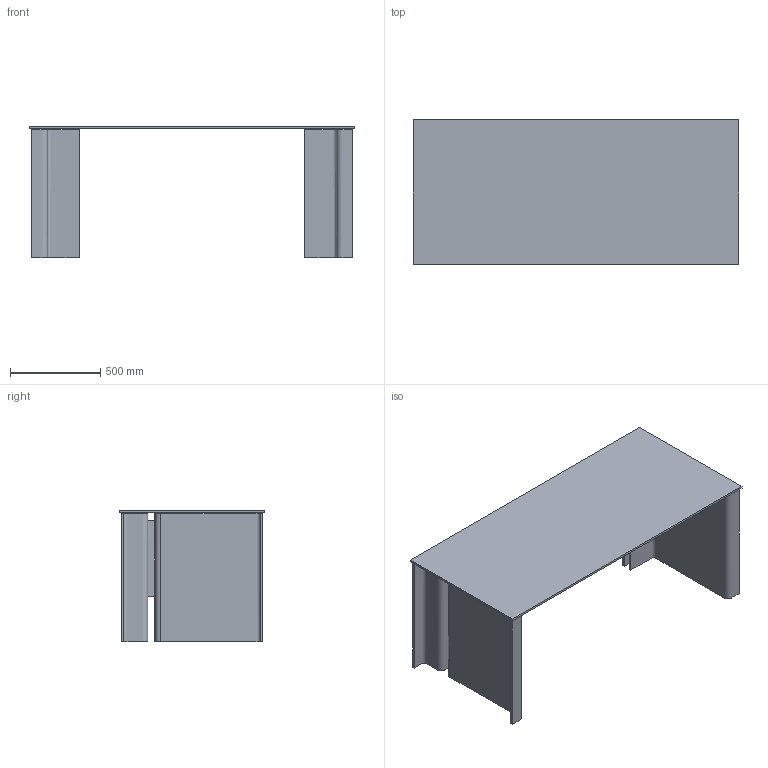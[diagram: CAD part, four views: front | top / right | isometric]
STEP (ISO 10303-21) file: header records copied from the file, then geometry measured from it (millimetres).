
FILE_DESCRIPTION(/* description */ (''),/* implementation_level */ '2;1');
FILE_NAME(/* name */ 'S1335 - Luminare Scrivania 180x80',/* time_stamp */ '2010-12-10T09:53:50+01:00',/* author */ (''),/* organization */ (''),/* preprocessor_version */ 'ST-DEVELOPER v10',/* originating_system */ '',/* authorisation */ '');
FILE_SCHEMA (('CONFIG_CONTROL_DESIGN'));
Length unit declared in the file: centimetre
Products named in the file (1): 1
Bounding box: 1800 x 800 x 726 mm (x, y, z)
Volume: 17961989.3 mm3; surface area: 6551827.3 mm2
Topology: 17 solids, 21 shells, 92 faces, 174 edges, 116 vertices
Faces by surface type: plane 54, bspline 38
Entity records: 2788 total; most frequent: CARTESIAN_POINT 1513, ORIENTED_EDGE 312, EDGE_CURVE 174, VERTEX_POINT 116, B_SPLINE_CURVE_WITH_KNOTS 98, ADVANCED_FACE 92, FACE_OUTER_BOUND 92, EDGE_LOOP 92
